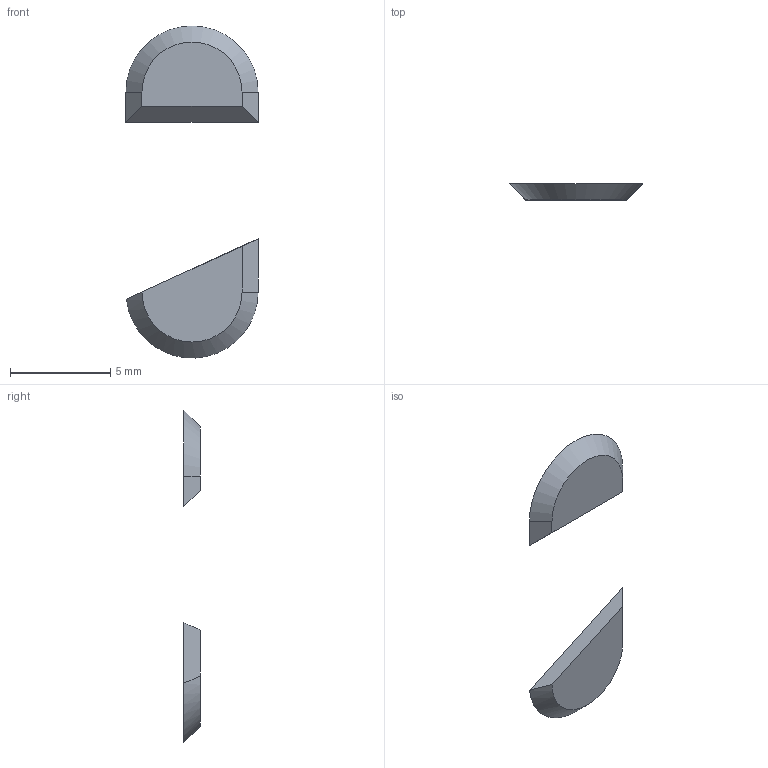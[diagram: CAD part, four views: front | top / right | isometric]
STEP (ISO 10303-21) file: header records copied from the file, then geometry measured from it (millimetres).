
FILE_DESCRIPTION(/* description */ ('STEP AP242','CAx-IF Rec.Pracs.---Representation and Presentation of Product Manufacturing Information (PMI)---4.0---2014-10-13','CAx-IF Rec.Pracs.---3D Tessellated Geometry---0.4---2014-09-14','2;1'),/* implementation_level */ '2;1');
FILE_NAME(/* name */ '649a8faa04a6637e630d4ddf',/* time_stamp */ '2023-06-27T07:28:43Z',/* author */ (''),/* organization */ (''),/* preprocessor_version */ 'ST-DEVELOPER v19.4',/* originating_system */ ' ',/* authorisation */ ' ');
FILE_SCHEMA (('AP242_MANAGED_MODEL_BASED_3D_ENGINEERING_MIM_LF { 1 0 10303 442 1 1 4 }'));
Length unit declared in the file: metre
Products named in the file (2): Alignment Guide Side Vertical 1; Alignment Guide Side Vertical 2
Bounding box: 6.6 x 0.8 x 16.6 mm (x, y, z)
Volume: 31.8 mm3; surface area: 117.9 mm2
Topology: 2 solids, 2 shells, 11 faces, 21 edges, 14 vertices
Faces by surface type: plane 9, cone 2
Entity records: 327 total; most frequent: CARTESIAN_POINT 51, DIRECTION 50, ORIENTED_EDGE 42, EDGE_CURVE 21, AXIS2_PLACEMENT_3D 17, LINE 16, VECTOR 16, VERTEX_POINT 14
